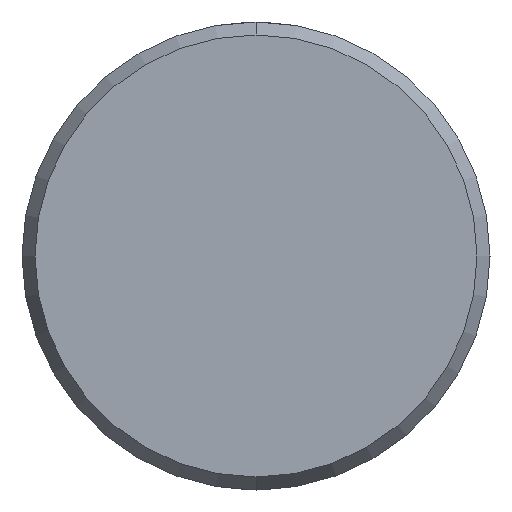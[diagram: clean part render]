
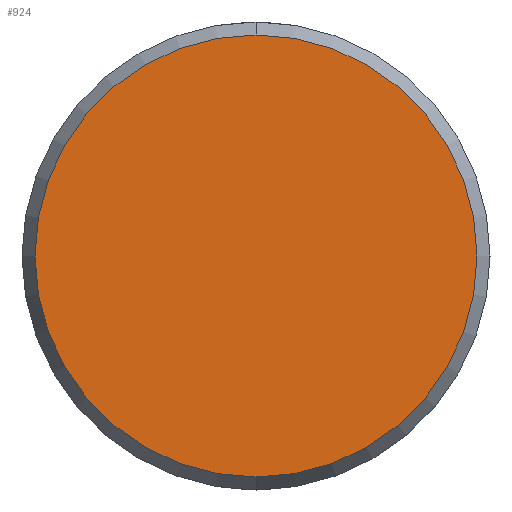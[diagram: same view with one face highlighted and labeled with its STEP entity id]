
A CAD part, front view. The second image highlights one B-rep face of the part: STEP entity #924.
In plain terms, the highlighted planar face has unit normal (0, -1, 0).
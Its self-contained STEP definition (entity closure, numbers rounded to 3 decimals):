
#30 = AXIS2_PLACEMENT_3D ( 'NONE', #32, #126, #624 ) ;
#32 = CARTESIAN_POINT ( 'NONE',  ( 0., -250., 0. ) ) ;
#46 = DIRECTION ( 'NONE',  ( 0., 1., 0. ) ) ;
#76 = AXIS2_PLACEMENT_3D ( 'NONE', #543, #46, #158 ) ;
#126 = DIRECTION ( 'NONE',  ( 0., -1., 0. ) ) ;
#158 = DIRECTION ( 'NONE',  ( 0., 0., 1. ) ) ;
#232 = DIRECTION ( 'NONE',  ( 0., -1., 0. ) ) ;
#423 = DIRECTION ( 'NONE',  ( 0., 0., -1. ) ) ;
#520 = CIRCLE ( 'NONE', #30, 85. ) ;
#532 = CARTESIAN_POINT ( 'NONE',  ( 0., -250., -85. ) ) ;
#543 = CARTESIAN_POINT ( 'NONE',  ( -85., -250., 0. ) ) ;
#551 = CARTESIAN_POINT ( 'NONE',  ( 0., -250., 85. ) ) ;
#569 = VERTEX_POINT ( 'NONE', #551 ) ;
#624 = DIRECTION ( 'NONE',  ( 0., 0., -1. ) ) ;
#781 = ORIENTED_EDGE ( 'NONE', *, *, #809, .T. ) ;
#809 = EDGE_CURVE ( 'NONE', #1152, #569, #520, .T. ) ;
#811 = CARTESIAN_POINT ( 'NONE',  ( 0., -250., 0. ) ) ;
#829 = CIRCLE ( 'NONE', #1271, 85. ) ;
#891 = EDGE_CURVE ( 'NONE', #569, #1152, #829, .T. ) ;
#902 = EDGE_LOOP ( 'NONE', ( #1012, #781 ) ) ;
#924 = ADVANCED_FACE ( 'NONE', ( #1005 ), #1202, .F. ) ;
#1005 = FACE_OUTER_BOUND ( 'NONE', #902, .T. ) ;
#1012 = ORIENTED_EDGE ( 'NONE', *, *, #891, .T. ) ;
#1152 = VERTEX_POINT ( 'NONE', #532 ) ;
#1202 = PLANE ( 'NONE',  #76 ) ;
#1271 = AXIS2_PLACEMENT_3D ( 'NONE', #811, #232, #423 ) ;
